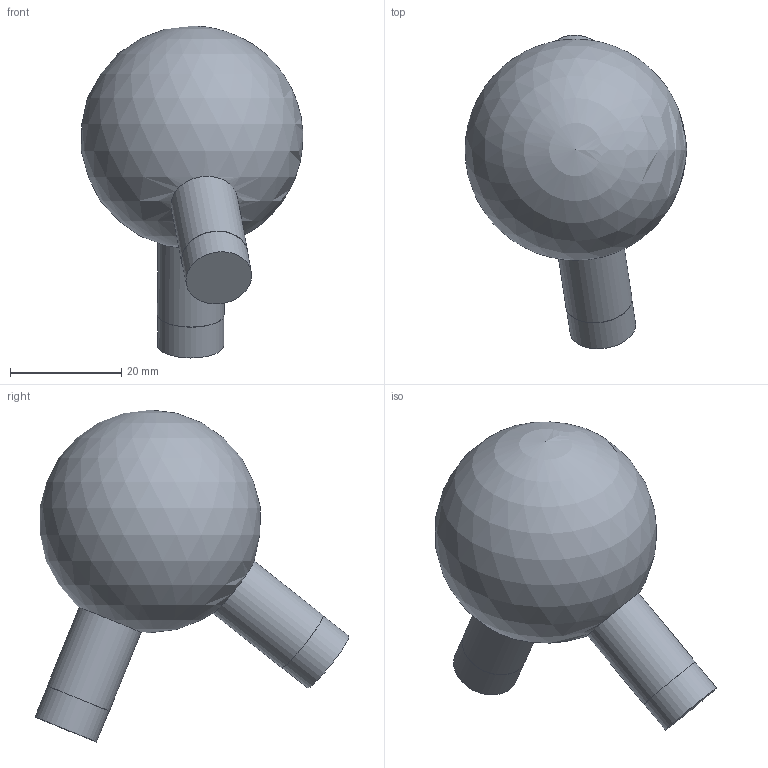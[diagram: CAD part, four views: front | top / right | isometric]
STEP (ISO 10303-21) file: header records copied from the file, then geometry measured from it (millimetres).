
FILE_DESCRIPTION(('Open CASCADE Model'),'2;1');
FILE_NAME('Open CASCADE Shape Model','2026-10-21T12:47:57',('Author'),( 'Open CASCADE'),'Open CASCADE STEP processor 7.9','Open CASCADE 7.9' ,'Unknown');
FILE_SCHEMA(('AUTOMOTIVE_DESIGN { 1 0 10303 214 1 1 1 1 }'));
Length unit declared in the file: millimetre
Products named in the file (1): Open CASCADE STEP translator 7.9 34
Bounding box: 39.83 x 56.4 x 59.65 mm (x, y, z)
Volume: 38277.9 mm3; surface area: 6649.2 mm2
Topology: 1 solids, 1 shells, 9 faces, 15 edges, 10 vertices
Faces by surface type: cylinder 4, plane 4, sphere 1
Full cylindrical faces by diameter (mm): 11.9 x2, 12 x2
Entity records: 551 total; most frequent: CARTESIAN_POINT 246, DIRECTION 62, ORIENTED_EDGE 24, PCURVE 24, DEFINITIONAL_REPRESENTATION 24, LINE 20, VECTOR 20, AXIS2_PLACEMENT_3D 18
